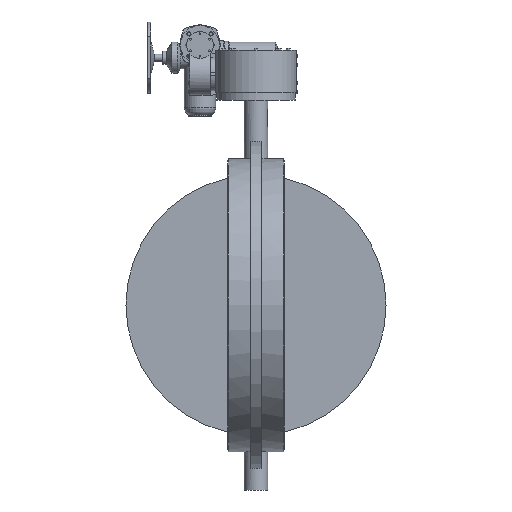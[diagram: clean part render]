
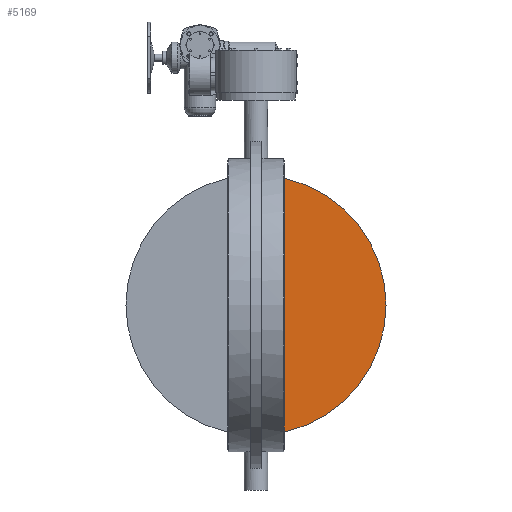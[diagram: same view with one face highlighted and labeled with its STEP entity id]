
A CAD part, front view. The second image highlights one B-rep face of the part: STEP entity #5169.
In plain terms, the highlighted planar face has unit normal (0, -1, 0).
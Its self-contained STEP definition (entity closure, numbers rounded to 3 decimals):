
#5169=ADVANCED_FACE('',(#10293),#10295,.T.);
#10293=FACE_BOUND('',#10294,.T.);
#10294=EDGE_LOOP('',(#13056,#13057));
#10295=PLANE('',#10296);
#10296=AXIS2_PLACEMENT_3D('',#10297,#10298,#10299);
#10297=CARTESIAN_POINT('',(0.,-10.,0.));
#10298=DIRECTION('',(0.,-1.,0.));
#10299=DIRECTION('',(0.,0.,1.));
#13056=ORIENTED_EDGE('',*,*,#14427,.T.);
#13057=ORIENTED_EDGE('',*,*,#14435,.T.);
#14427=EDGE_CURVE('',#16759,#16756,#16760,.T.);
#14435=EDGE_CURVE('',#16756,#16759,#16773,.T.);
#16756=VERTEX_POINT('',#25969);
#16759=VERTEX_POINT('',#26006);
#16760=LINE('',#26007,#26008);
#16773=CIRCLE('',#26133,580.3);
#25969=CARTESIAN_POINT('',(41.307,-10.,-578.828));
#26006=CARTESIAN_POINT('',(41.307,-10.,578.828));
#26007=CARTESIAN_POINT('',(41.307,-10.,578.828));
#26008=VECTOR('',#26009,1.);
#26009=DIRECTION('',(0.,0.,-1.));
#26133=AXIS2_PLACEMENT_3D('',#26134,#26135,#26136);
#26134=CARTESIAN_POINT('',(0.,-10.,0.));
#26135=DIRECTION('',(0.,-1.,0.));
#26136=DIRECTION('',(0.071,0.,-0.997));
